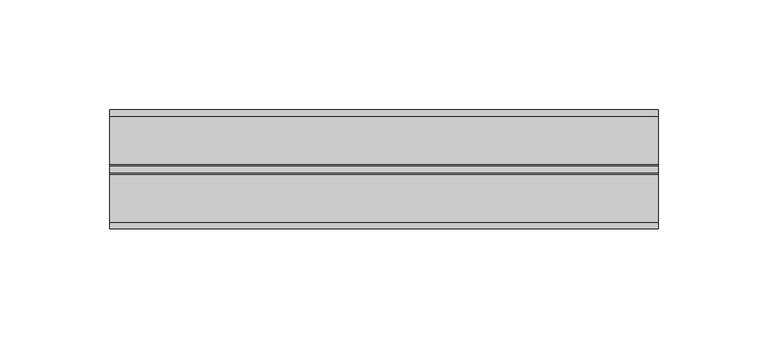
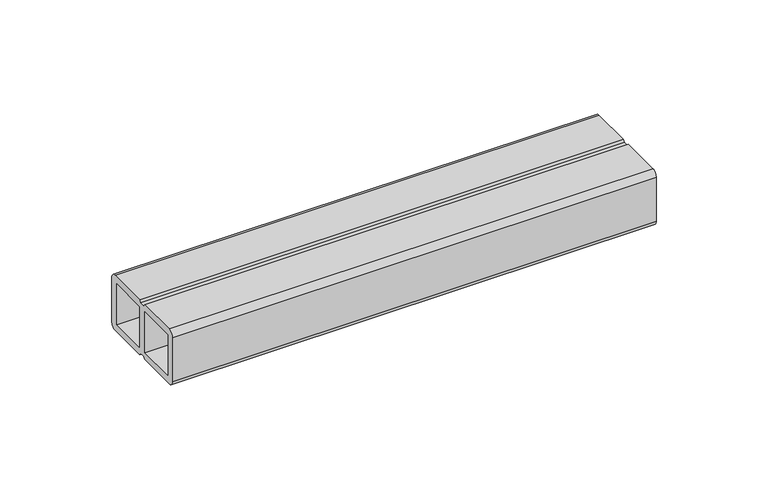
"""IFC4 building model written with IfcOpenShell, lengths in millimetres: proxy geometry, Legar systemowy LD5030 : Legar systemowy LD5030."""

from ifc_helpers import new_model, si_unit, point, frame, frame_2d, origin, place, context, project, spatial, polyline, circle_curve, trimmed, segment, composite_curve, outline, extrude, source, transform, mapped, element, save


def generic_models_ad5caf77(model_context):
    return source(origin(), model_context, "Body", "SweptSolid", [
        extrude(outline(composite_curve([segment(polyline([(-3.0018903, 0.0), (-24.9387574, 0.0), (-25.582892, 1.2480109), (-28.6791258, 1.2480109), (-29.3232605, 0.0), (-51.2601275, 0.0)]), True, "CONTINUOUS"), segment(trimmed(circle_curve(frame_2d((-51.2410882, 3.0209296)), 3.0209896), [point((-51.2601275, 0.0))], [point((-54.2620178, 3.0018903))], False, "CARTESIAN"), True, "CONTINUOUS"), segment(polyline([(-54.2620178, 3.0018903), (-54.2620178, 26.9981097)]), True, "CONTINUOUS"), segment(trimmed(circle_curve(frame_2d((-51.227068, 26.9650502)), 3.0351298), [point((-54.2620178, 26.9981097))], [point((-51.2601275, 30.0))], False, "CARTESIAN"), True, "CONTINUOUS"), segment(polyline([(-51.2601275, 30.0), (-29.321697, 30.0), (-28.6791258, 28.7550182), (-25.582892, 28.7550182), (-24.9403208, 30.0), (-3.0018903, 30.0)]), True, "CONTINUOUS"), segment(trimmed(circle_curve(frame_2d((-3.0359475, 26.9640525)), 3.0361385), [point((-3.0018903, 30.0))], [point((0.0, 26.9981097))], False, "CARTESIAN"), True, "CONTINUOUS"), segment(polyline([(0.0, 26.9981097), (0.0, 3.0018903)]), True, "CONTINUOUS"), segment(trimmed(circle_curve(frame_2d((-3.0303538, 3.0303538)), 3.0304875), [point((0.0, 3.0018903))], [point((-3.0018903, 0.0))], False, "CARTESIAN"), True, "CONTINUOUS")], self_intersect=False), holes=[polyline([(-24.7311627, 26.1226846), (-24.7311627, 3.8773154), (-4.2620178, 3.8773154), (-4.2620178, 26.1226846), (-24.7311627, 26.1226846)]), polyline([(-29.5308551, 26.1226846), (-50.0, 26.1226846), (-50.0, 3.8773154), (-29.5308551, 3.8773154), (-29.5308551, 26.1226846)])]), frame((0.0, 0.0, 0.0), z_axis=(1.0, 0.0, 0.0), x_axis=(0.0, 1.0, 0.0)), (0.0, 0.0, 1.0), 250.0),
    ])


if __name__ == "__main__":
    model = new_model("IFC4")
    model_context = context("Model", 3, world=origin())
    ifc_project = project(units=[si_unit("LENGTHUNIT", "METRE", prefix="MILLI")], contexts=[model_context])
    site = spatial("IfcSite", under=ifc_project)
    building = spatial("IfcBuilding", under=site)
    placement = place(None, origin())
    generic_models_shape = generic_models_ad5caf77(model_context)
    element("IfcBuildingElementProxy", 1, Name="Legar systemowy LD5030 : Legar systemowy LD5030", ObjectType="Legar systemowy LD5030 : Legar systemowy LD5030", at=placement, inside=building, context=model_context, shape_type="MappedRepresentation", body=[
        mapped(generic_models_shape, transform((0.0, 0.0, 0.0), x_axis=(1.0, 0.0, 0.0), y_axis=(0.0, 1.0, 0.0), z_axis=(0.0, 0.0, 1.0))),
    ])
    save(model, "model.ifc")
